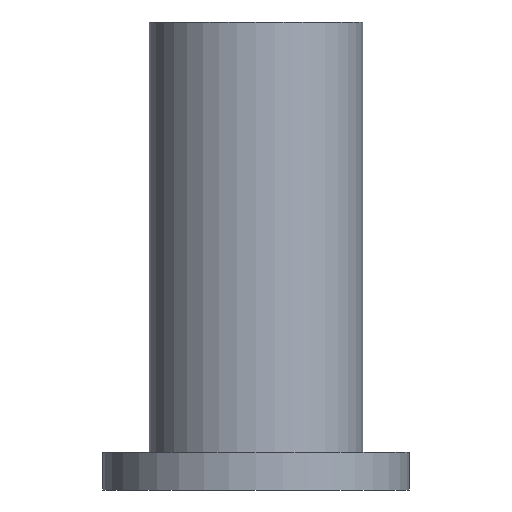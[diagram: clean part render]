
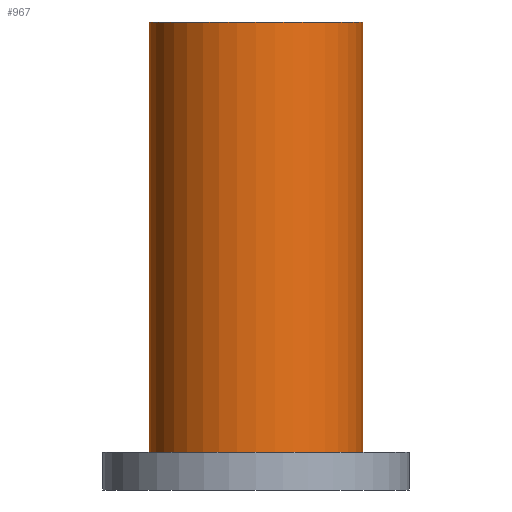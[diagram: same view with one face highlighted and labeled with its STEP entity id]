
A CAD part, front view. The second image highlights one B-rep face of the part: STEP entity #967.
In plain terms, the highlighted cylindrical face has radius 67.5 mm (diameter 135 mm), a partial arc.
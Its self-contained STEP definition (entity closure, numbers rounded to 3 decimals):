
#129=CARTESIAN_POINT('',(0.,0.,24.));
#130=DIRECTION('',(0.,0.,-1.));
#131=DIRECTION('',(1.,0.,0.));
#132=AXIS2_PLACEMENT_3D('',#129,#130,#131);
#297=DIRECTION('',(0.,0.,-1.));
#298=VECTOR('',#297,272.);
#299=CARTESIAN_POINT('',(-67.5,0.,296.));
#300=LINE('',#299,#298);
#301=DIRECTION('',(0.,0.,-1.));
#302=VECTOR('',#301,272.);
#303=CARTESIAN_POINT('',(67.5,0.,296.));
#304=LINE('',#303,#302);
#310=CARTESIAN_POINT('',(0.,0.,296.));
#311=DIRECTION('',(0.,0.,1.));
#312=DIRECTION('',(-1.,0.,0.));
#313=AXIS2_PLACEMENT_3D('',#310,#311,#312);
#589=CARTESIAN_POINT('',(67.5,0.,296.));
#590=CARTESIAN_POINT('',(67.5,0.,24.));
#591=VERTEX_POINT('',#589);
#592=VERTEX_POINT('',#590);
#593=CARTESIAN_POINT('',(-67.5,0.,296.));
#594=CARTESIAN_POINT('',(-67.5,0.,24.));
#595=VERTEX_POINT('',#593);
#596=VERTEX_POINT('',#594);
#953=CARTESIAN_POINT('',(0.,0.,296.));
#954=DIRECTION('',(0.,0.,-1.));
#955=DIRECTION('',(-1.,0.,0.));
#956=AXIS2_PLACEMENT_3D('',#953,#954,#955);
#957=CYLINDRICAL_SURFACE('',#956,67.5);
#958=ORIENTED_EDGE('',*,*,#694,.T.);
#960=ORIENTED_EDGE('',*,*,#959,.F.);
#962=ORIENTED_EDGE('',*,*,#961,.T.);
#964=ORIENTED_EDGE('',*,*,#963,.T.);
#965=EDGE_LOOP('',(#958,#960,#962,#964));
#966=FACE_OUTER_BOUND('',#965,.F.);
#967=ADVANCED_FACE('',(#966),#957,.T.);
#133=CIRCLE('',#132,67.5);
#314=CIRCLE('',#313,67.5);
#694=EDGE_CURVE('',#592,#596,#133,.T.);
#959=EDGE_CURVE('',#595,#596,#300,.T.);
#961=EDGE_CURVE('',#595,#591,#314,.T.);
#963=EDGE_CURVE('',#591,#592,#304,.T.);
